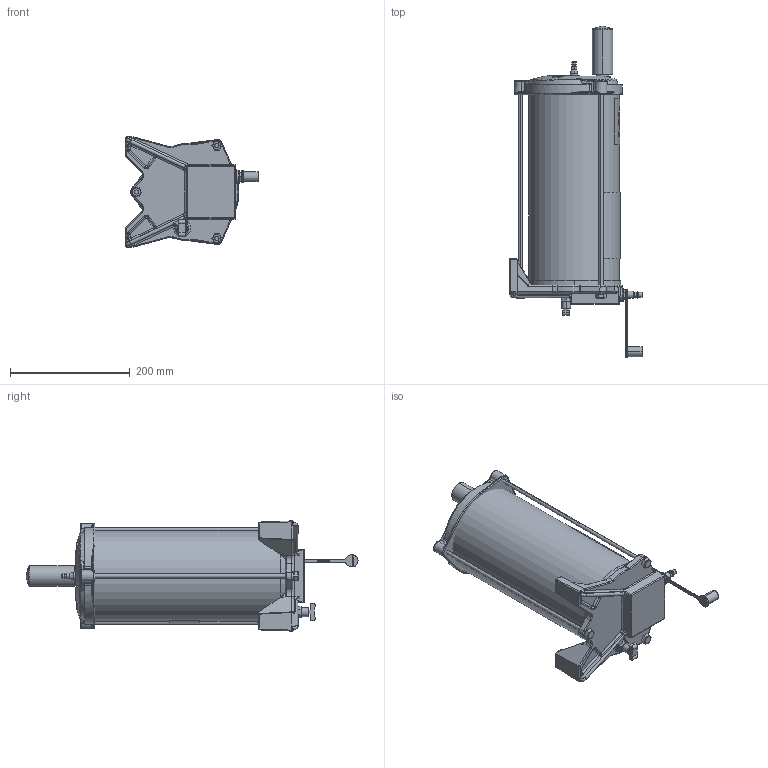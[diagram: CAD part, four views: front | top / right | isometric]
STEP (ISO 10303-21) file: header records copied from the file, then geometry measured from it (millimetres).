
FILE_DESCRIPTION((''),'2;1');
FILE_NAME('562884-EN-F_PRT','2019-12-31T21:44:55',('qusrh3'),(''),'CREO PARAMETRIC BY PTC INC, 2019030','CREO PARAMETRIC BY PTC INC, 2019030','');
FILE_SCHEMA(('CONFIG_CONTROL_DESIGN'));
Length unit declared in the file: inch
Products named in the file (1): 562884-EN-F_PRT
Bounding box: 222.23 x 554.61 x 184.03 mm (x, y, z)
Surface area: 401014.8 mm2 (no closed solid volume)
Topology: 0 solids, 92 shells, 806 faces, 2875 edges, 2142 vertices
Faces by surface type: plane 237, cylinder 223, bspline 168, cone 88, torus 70, sphere 16, extrusion 4
Entity records: 39605 total; most frequent: CARTESIAN_POINT 17247, ORIENTED_EDGE 4492, DIRECTION 4045, EDGE_CURVE 2873, VERTEX_POINT 2142, VECTOR 1551, LINE 1547, AXIS2_PLACEMENT_3D 1247
